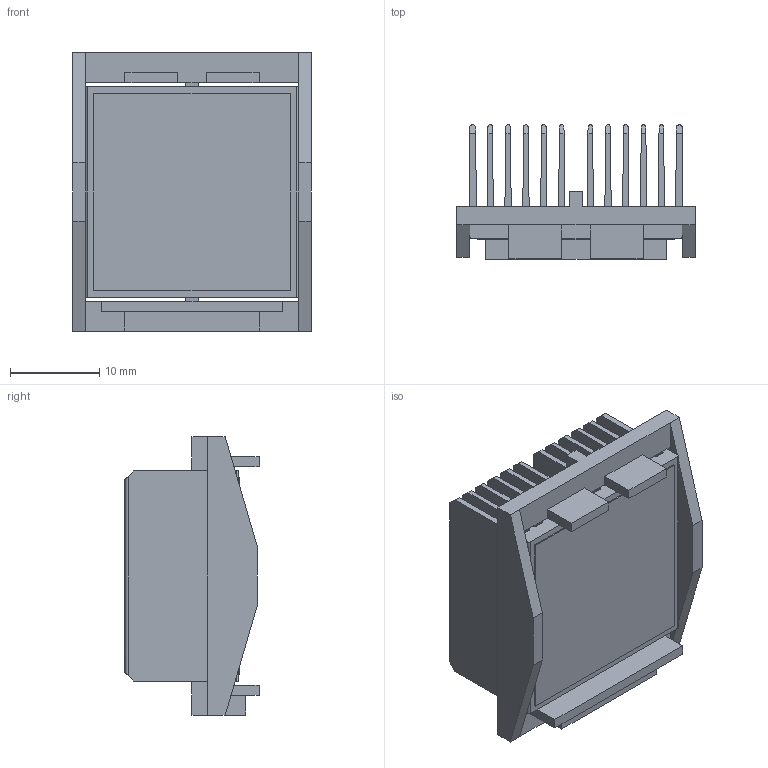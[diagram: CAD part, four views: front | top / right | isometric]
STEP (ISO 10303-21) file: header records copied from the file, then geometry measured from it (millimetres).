
FILE_DESCRIPTION (( 'STEP AP214' ), '1' );
FILE_NAME ('INL24001-13-1.7Y.STEP', '2023-02-21T18:23:05', ( '' ), ( '' ), 'SwSTEP 2.0', 'SolidWorks 2020', '' );
FILE_SCHEMA (( 'AUTOMOTIVE_DESIGN' ));
Length unit declared in the file: millimetre
Products named in the file (1): INL24001-13-1.7Y
Bounding box: 26.7 x 15 x 31.1 mm (x, y, z)
Volume: 3986 mm3; surface area: 10098 mm2
Topology: 3 solids, 3 shells, 152 faces, 440 edges, 292 vertices
Faces by surface type: plane 116, cylinder 36
Entity records: 6668 total; most frequent: CARTESIAN_POINT 957, ORIENTED_EDGE 880, DIRECTION 770, EDGE_CURVE 440, VECTOR 368, LINE 368, VERTEX_POINT 292, AXIS2_PLACEMENT_3D 201
